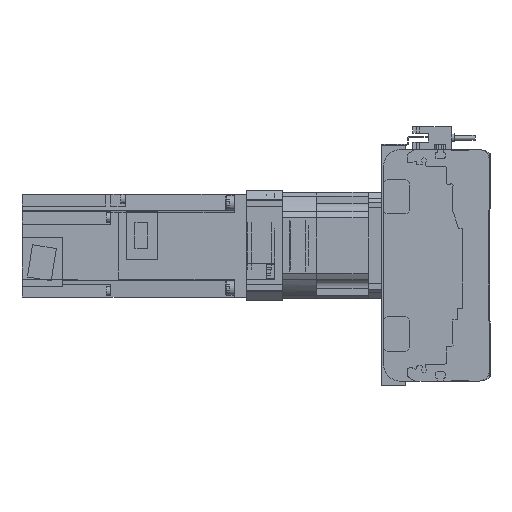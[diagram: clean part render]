
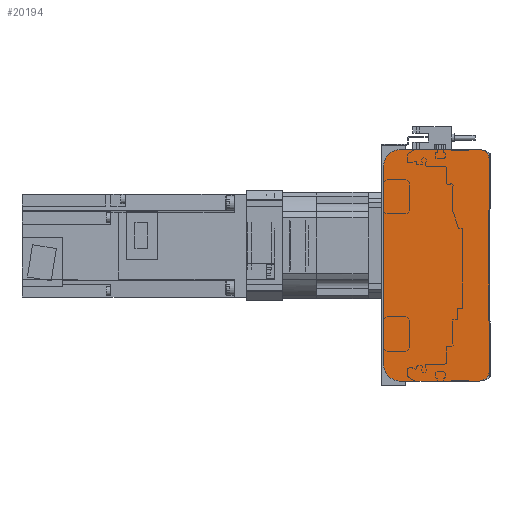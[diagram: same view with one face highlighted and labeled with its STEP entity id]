
A CAD part, left-side view. The second image highlights one B-rep face of the part: STEP entity #20194.
In plain terms, the highlighted planar face has unit normal (-1, 0, 0).
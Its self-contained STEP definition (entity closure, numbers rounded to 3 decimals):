
#1296=CIRCLE('',#22121,5.);
#1297=CIRCLE('',#22124,5.);
#1298=CIRCLE('',#22127,10.);
#1299=CIRCLE('',#22130,10.);
#5965=ORIENTED_EDGE('',*,*,#9153,.F.);
#5966=ORIENTED_EDGE('',*,*,#9310,.F.);
#5967=ORIENTED_EDGE('',*,*,#9302,.F.);
#5968=ORIENTED_EDGE('',*,*,#9300,.F.);
#5969=ORIENTED_EDGE('',*,*,#8935,.F.);
#5970=ORIENTED_EDGE('',*,*,#9299,.F.);
#5971=ORIENTED_EDGE('',*,*,#9297,.F.);
#5972=ORIENTED_EDGE('',*,*,#9295,.F.);
#5973=ORIENTED_EDGE('',*,*,#9293,.F.);
#5974=ORIENTED_EDGE('',*,*,#9291,.F.);
#8935=EDGE_CURVE('',#11110,#11111,#12890,.T.);
#9153=EDGE_CURVE('',#11211,#11212,#13033,.T.);
#9291=EDGE_CURVE('',#11212,#11295,#13162,.T.);
#9293=EDGE_CURVE('',#11295,#11296,#1296,.T.);
#9295=EDGE_CURVE('',#11296,#11297,#13165,.T.);
#9297=EDGE_CURVE('',#11297,#11298,#1297,.T.);
#9299=EDGE_CURVE('',#11298,#11110,#13168,.T.);
#9300=EDGE_CURVE('',#11111,#11299,#1298,.T.);
#9302=EDGE_CURVE('',#11299,#11300,#13170,.T.);
#9310=EDGE_CURVE('',#11300,#11211,#1299,.T.);
#11110=VERTEX_POINT('',#33240);
#11111=VERTEX_POINT('',#33242);
#11211=VERTEX_POINT('',#33635);
#11212=VERTEX_POINT('',#33637);
#11295=VERTEX_POINT('',#33914);
#11296=VERTEX_POINT('',#33918);
#11297=VERTEX_POINT('',#33922);
#11298=VERTEX_POINT('',#33926);
#11299=VERTEX_POINT('',#33932);
#11300=VERTEX_POINT('',#33936);
#12890=LINE('',#33241,#14653);
#13033=LINE('',#33636,#14796);
#13162=LINE('',#33913,#14925);
#13165=LINE('',#33921,#14928);
#13168=LINE('',#33929,#14931);
#13170=LINE('',#33935,#14933);
#14653=VECTOR('',#26748,1000.);
#14796=VECTOR('',#27193,1000.);
#14925=VECTOR('',#27452,1000.);
#14928=VECTOR('',#27461,1000.);
#14931=VECTOR('',#27470,1000.);
#14933=VECTOR('',#27478,1000.);
#16363=EDGE_LOOP('',(#5965,#5966,#5967,#5968,#5969,#5970,#5971,#5972,#5973,
#5974));
#18132=FACE_BOUND('',#16363,.T.);
#19143=PLANE('',#22131);
#20194=ADVANCED_FACE('',(#18132),#19143,.F.);
#22121=AXIS2_PLACEMENT_3D('',#33917,#27456,#27457);
#22124=AXIS2_PLACEMENT_3D('',#33925,#27465,#27466);
#22127=AXIS2_PLACEMENT_3D('',#33931,#27473,#27474);
#22130=AXIS2_PLACEMENT_3D('',#33949,#27488,#27489);
#22131=AXIS2_PLACEMENT_3D('',#33950,#27490,#27491);
#26748=DIRECTION('',(0.,1.,0.));
#27193=DIRECTION('',(0.,-1.,0.));
#27452=DIRECTION('',(0.,-0.942,-0.336));
#27456=DIRECTION('',(1.,0.,0.));
#27457=DIRECTION('',(0.,0.,-1.));
#27461=DIRECTION('',(0.,0.,-1.));
#27465=DIRECTION('',(1.,0.,0.));
#27466=DIRECTION('',(0.,0.,-1.));
#27470=DIRECTION('',(0.,0.942,-0.336));
#27473=DIRECTION('',(1.,0.,0.));
#27474=DIRECTION('',(0.,0.,-1.));
#27478=DIRECTION('',(0.,0.,1.));
#27488=DIRECTION('',(1.,0.,0.));
#27489=DIRECTION('',(0.,0.,-1.));
#27490=DIRECTION('',(1.,0.,0.));
#27491=DIRECTION('',(0.,0.,-1.));
#33240=CARTESIAN_POINT('',(-10.,6.,-67.5));
#33241=CARTESIAN_POINT('',(-10.,6.,-67.5));
#33242=CARTESIAN_POINT('',(-10.,52.,-67.5));
#33635=CARTESIAN_POINT('',(-10.,52.,67.5));
#33636=CARTESIAN_POINT('',(-10.,52.,67.5));
#33637=CARTESIAN_POINT('',(-10.,6.,67.5));
#33913=CARTESIAN_POINT('',(-10.,6.,67.5));
#33914=CARTESIAN_POINT('',(-10.,3.822,66.724));
#33917=CARTESIAN_POINT('',(-10.,5.5,62.014));
#33918=CARTESIAN_POINT('',(-10.,0.5,62.014));
#33921=CARTESIAN_POINT('',(-10.,0.5,62.014));
#33922=CARTESIAN_POINT('',(-10.,0.5,-62.014));
#33925=CARTESIAN_POINT('',(-10.,5.5,-62.014));
#33926=CARTESIAN_POINT('',(-10.,3.822,-66.724));
#33929=CARTESIAN_POINT('',(-10.,3.822,-66.724));
#33931=CARTESIAN_POINT('',(-10.,52.,-57.5));
#33932=CARTESIAN_POINT('',(-10.,62.,-57.5));
#33935=CARTESIAN_POINT('',(-10.,62.,-57.5));
#33936=CARTESIAN_POINT('',(-10.,62.,57.5));
#33949=CARTESIAN_POINT('',(-10.,52.,57.5));
#33950=CARTESIAN_POINT('',(-10.,5.5,62.014));
